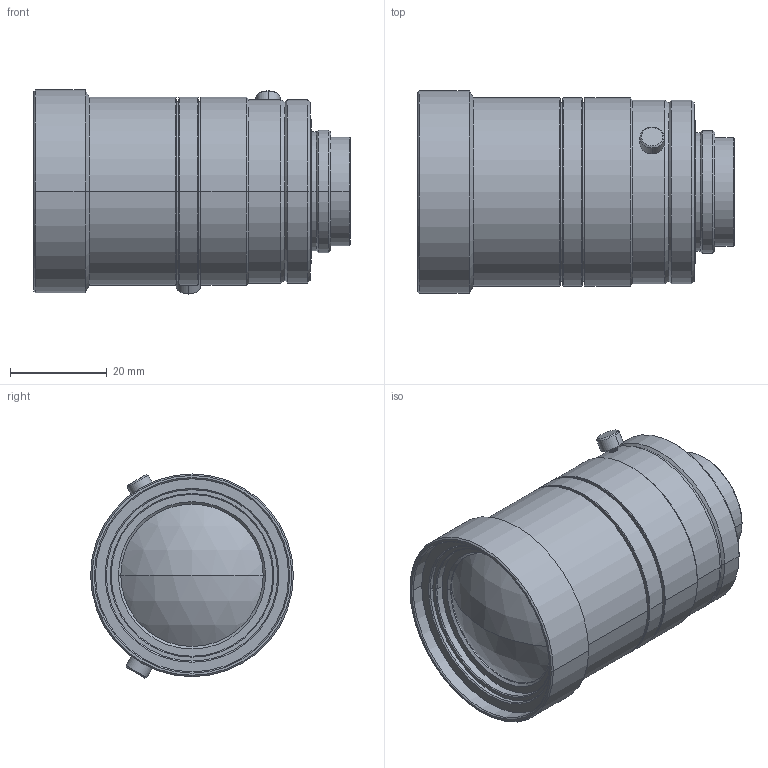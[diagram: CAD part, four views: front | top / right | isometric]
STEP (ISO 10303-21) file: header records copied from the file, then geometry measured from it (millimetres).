
FILE_DESCRIPTION (( 'STEP AP203' ), '1' );
FILE_NAME ('SV-0614H.STEP', '2014-06-18T00:18:31', ( '' ), ( '' ), 'SwSTEP 2.0', 'SolidWorks 2014', '' );
FILE_SCHEMA (( 'CONFIG_CONTROL_DESIGN' ));
Length unit declared in the file: millimetre
Products named in the file (1): SV-0614H
Bounding box: 65.51 x 42 x 42.28 mm (x, y, z)
Volume: 68712.7 mm3; surface area: 11674.8 mm2
Topology: 1 solids, 1 shells, 121 faces, 240 edges, 138 vertices
Faces by surface type: cone 54, cylinder 46, plane 17, sphere 4
Entity records: 3235 total; most frequent: DIRECTION 616, CARTESIAN_POINT 564, ORIENTED_EDGE 480, AXIS2_PLACEMENT_3D 258, EDGE_CURVE 240, EDGE_LOOP 138, VERTEX_POINT 138, CIRCLE 136
